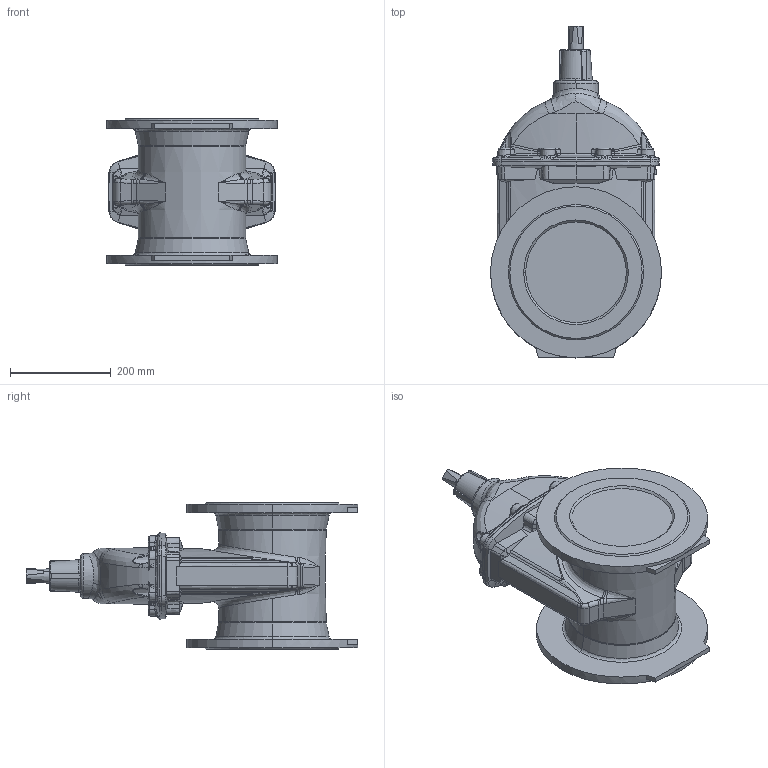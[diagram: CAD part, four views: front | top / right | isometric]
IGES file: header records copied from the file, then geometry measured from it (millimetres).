
Start section: SolidWorks IGES file using analytic representation for surfaces
Global section: file name: C:\Users\qida\Desktop\kerrie.qian\02_20 outline drawing\DN200\O_02_20_DN200_XXXXX9.IGS; native system: SolidWorks 2012; preprocessor: SolidWorks 2012; author: qida; date: 140714.155307; units: millimetre
Bounding box: 340 x 659.86 x 292 mm (x, y, z)
Volume: 21281469.5 mm3; surface area: 764400.7 mm2
Topology: 1 solids, 1 shells, 716 faces, 1778 edges, 1080 vertices
Faces by surface type: bspline 287, revolution 252, plane 177
